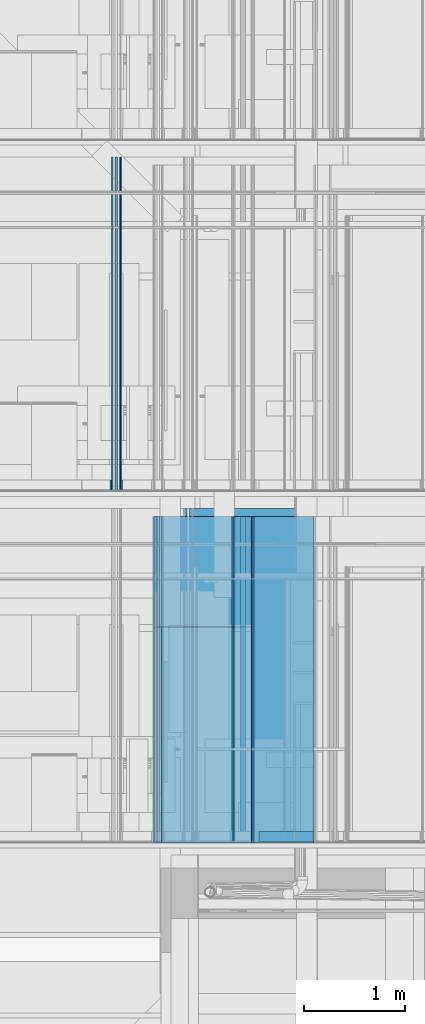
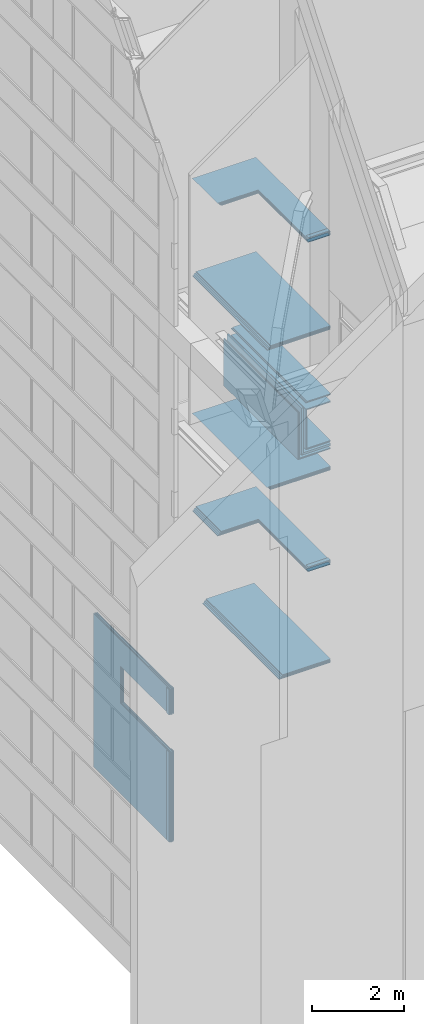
# One storey, part 62 of 583: 38 building element parts, 9 openings, 9 elements without a shape of their own.
"""IFC2X3 building model written with IfcOpenShell, lengths in metres."""

from ifc_helpers import new_model, entity, si_unit, converted_unit, derived_unit, money_unit, direction, frame, frame_2d, origin_with_axes, place, context, subcontext, project, spatial, polyline, rectangle, outline, extrude, material, type_object, element, aggregate, save


model = new_model("IFC2X3")

# Units and contexts
model_context = context("Model", 3, precision=1e-05, world=origin_with_axes(), true_north=direction((0.0, 1.0)))
body_context = subcontext(model_context, "Body", "Model", "MODEL_VIEW", scale=1.0)
ifc_project = project(units=[si_unit("LENGTHUNIT", "METRE"), si_unit("AREAUNIT", "SQUARE_METRE"), si_unit("VOLUMEUNIT", "CUBIC_METRE"), si_unit("ABSORBEDDOSEUNIT", "GRAY"), si_unit("AMOUNTOFSUBSTANCEUNIT", "MOLE"), si_unit("DOSEEQUIVALENTUNIT", "SIEVERT"), si_unit("ELECTRICCAPACITANCEUNIT", "FARAD"), si_unit("ELECTRICCHARGEUNIT", "COULOMB"), si_unit("ELECTRICCONDUCTANCEUNIT", "SIEMENS"), si_unit("ELECTRICCURRENTUNIT", "AMPERE"), si_unit("ELECTRICRESISTANCEUNIT", "OHM"), si_unit("ELECTRICVOLTAGEUNIT", "VOLT"), si_unit("ENERGYUNIT", "JOULE"), si_unit("FORCEUNIT", "NEWTON"), si_unit("FREQUENCYUNIT", "HERTZ"), si_unit("ILLUMINANCEUNIT", "LUX"), si_unit("INDUCTANCEUNIT", "HENRY"), si_unit("LUMINOUSFLUXUNIT", "LUMEN"), si_unit("LUMINOUSINTENSITYUNIT", "CANDELA"), si_unit("MAGNETICFLUXDENSITYUNIT", "TESLA"), si_unit("MAGNETICFLUXUNIT", "WEBER"), si_unit("MASSUNIT", "GRAM"), converted_unit("PLANEANGLEUNIT", "degree", entity("IfcReal", 0.0174532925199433), si_unit("PLANEANGLEUNIT", "RADIAN"), dimensions=[0, 0, 0, 0, 0, 0, 0]), si_unit("POWERUNIT", "WATT"), si_unit("PRESSUREUNIT", "PASCAL"), si_unit("RADIOACTIVITYUNIT", "BECQUEREL"), si_unit("SOLIDANGLEUNIT", "STERADIAN"), si_unit("THERMODYNAMICTEMPERATUREUNIT", "KELVIN"), si_unit("TIMEUNIT", "SECOND"), derived_unit("ACCELERATIONUNIT", [(si_unit("LENGTHUNIT", "METRE"), 1), (si_unit("TIMEUNIT", "SECOND"), -2)]), derived_unit("ANGULARVELOCITYUNIT", [(converted_unit("PLANEANGLEUNIT", "degree", entity("IfcReal", 0.0174532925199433), si_unit("PLANEANGLEUNIT", "RADIAN"), dimensions=[0, 0, 0, 0, 0, 0, 0]), 1), (si_unit("TIMEUNIT", "SECOND"), -1)]), derived_unit("CURVATUREUNIT", [(converted_unit("PLANEANGLEUNIT", "degree", entity("IfcReal", 0.0174532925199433), si_unit("PLANEANGLEUNIT", "RADIAN"), dimensions=[0, 0, 0, 0, 0, 0, 0]), 1), (si_unit("LENGTHUNIT", "METRE"), -1)]), derived_unit("DYNAMICVISCOSITYUNIT", [(si_unit("PRESSUREUNIT", "PASCAL"), 1), (si_unit("TIMEUNIT", "SECOND"), 1)]), derived_unit("HEATFLUXDENSITYUNIT", [(si_unit("POWERUNIT", "WATT"), 1), (si_unit("LENGTHUNIT", "METRE"), -2)]), derived_unit("HEATINGVALUEUNIT", [(si_unit("ENERGYUNIT", "JOULE"), 1), (si_unit("MASSUNIT", "GRAM"), -1)]), derived_unit("INTEGERCOUNTRATEUNIT", [(si_unit("TIMEUNIT", "SECOND"), -1)]), derived_unit("IONCONCENTRATIONUNIT", [(si_unit("MASSUNIT", "GRAM"), 1), (si_unit("VOLUMEUNIT", "CUBIC_METRE"), -1)]), derived_unit("ISOTHERMALMOISTURECAPACITYUNIT", [(si_unit("VOLUMEUNIT", "CUBIC_METRE"), 1), (si_unit("MASSUNIT", "GRAM"), -1)]), derived_unit("KINEMATICVISCOSITYUNIT", [(si_unit("AREAUNIT", "SQUARE_METRE"), 1), (si_unit("TIMEUNIT", "SECOND"), -1)]), derived_unit("LINEARFORCEUNIT", [(si_unit("FORCEUNIT", "NEWTON"), 1), (si_unit("LENGTHUNIT", "METRE"), -1)]), derived_unit("LINEARMOMENTUNIT", [(si_unit("FORCEUNIT", "NEWTON"), 1), (si_unit("LENGTHUNIT", "METRE"), -1)]), derived_unit("LINEARSTIFFNESSUNIT", [(si_unit("FORCEUNIT", "NEWTON"), 1), (si_unit("LENGTHUNIT", "METRE"), -1)]), derived_unit("LINEARVELOCITYUNIT", [(si_unit("LENGTHUNIT", "METRE"), 1), (si_unit("TIMEUNIT", "SECOND"), -1)]), derived_unit("LUMINOUSINTENSITYDISTRIBUTIONUNIT", [(si_unit("LUMINOUSINTENSITYUNIT", "CANDELA"), 1), (si_unit("LUMINOUSFLUXUNIT", "LUMEN"), -1)]), derived_unit("MASSDENSITYUNIT", [(si_unit("MASSUNIT", "GRAM"), 1), (si_unit("VOLUMEUNIT", "CUBIC_METRE"), -1)]), derived_unit("MASSFLOWRATEUNIT", [(si_unit("MASSUNIT", "GRAM"), 1), (si_unit("TIMEUNIT", "SECOND"), -1)]), derived_unit("MASSPERLENGTHUNIT", [(si_unit("MASSUNIT", "GRAM"), 1), (si_unit("LENGTHUNIT", "METRE"), -1)]), derived_unit("MODULUSOFELASTICITYUNIT", [(si_unit("FORCEUNIT", "NEWTON"), 1), (si_unit("AREAUNIT", "SQUARE_METRE"), -1)]), derived_unit("MODULUSOFLINEARSUBGRADEREACTIONUNIT", [(si_unit("FORCEUNIT", "NEWTON"), 1), (si_unit("LENGTHUNIT", "METRE"), -2)]), derived_unit("MODULUSOFROTATIONALSUBGRADEREACTIONUNIT", [(si_unit("FORCEUNIT", "NEWTON"), 1), (si_unit("LENGTHUNIT", "METRE"), 1)]), derived_unit("MODULUSOFSUBGRADEREACTIONUNIT", [(si_unit("FORCEUNIT", "NEWTON"), 1), (si_unit("VOLUMEUNIT", "CUBIC_METRE"), -1)]), derived_unit("MOISTUREDIFFUSIVITYUNIT", [(si_unit("VOLUMEUNIT", "CUBIC_METRE"), 1), (si_unit("TIMEUNIT", "SECOND"), -1)]), derived_unit("MOLECULARWEIGHTUNIT", [(si_unit("MASSUNIT", "GRAM"), 1), (si_unit("AMOUNTOFSUBSTANCEUNIT", "MOLE"), -1)]), derived_unit("PLANARFORCEUNIT", [(si_unit("FORCEUNIT", "NEWTON"), 1), (si_unit("LENGTHUNIT", "METRE"), -2)]), derived_unit("ROTATIONALFREQUENCYUNIT", [(si_unit("TIMEUNIT", "SECOND"), -1)]), derived_unit("ROTATIONALMASSUNIT", [(si_unit("MASSUNIT", "GRAM"), 1), (si_unit("LENGTHUNIT", "METRE"), 2)]), derived_unit("ROTATIONALSTIFFNESSUNIT", [(si_unit("FORCEUNIT", "NEWTON"), 1), (si_unit("LENGTHUNIT", "METRE"), 1), (converted_unit("PLANEANGLEUNIT", "degree", entity("IfcReal", 0.0174532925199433), si_unit("PLANEANGLEUNIT", "RADIAN"), dimensions=[0, 0, 0, 0, 0, 0, 0]), -1)]), derived_unit("SECTIONAREAINTEGRALUNIT", [(si_unit("LENGTHUNIT", "METRE"), 5)]), derived_unit("SECTIONMODULUSUNIT", [(si_unit("LENGTHUNIT", "METRE"), 3)]), derived_unit("SHEARMODULUSUNIT", [(si_unit("FORCEUNIT", "NEWTON"), 1), (si_unit("AREAUNIT", "SQUARE_METRE"), -1)]), derived_unit("SOUNDPOWERUNIT", [(si_unit("ENERGYUNIT", "JOULE"), 1), (si_unit("TIMEUNIT", "SECOND"), -1)]), derived_unit("SPECIFICHEATCAPACITYUNIT", [(si_unit("FORCEUNIT", "NEWTON"), 1), (si_unit("MASSUNIT", "GRAM"), -1), (si_unit("THERMODYNAMICTEMPERATUREUNIT", "KELVIN"), -1)]), derived_unit("TEMPERATUREGRADIENTUNIT", [(si_unit("THERMODYNAMICTEMPERATUREUNIT", "KELVIN"), 1), (si_unit("LENGTHUNIT", "METRE"), -1)]), derived_unit("THERMALADMITTANCEUNIT", [(si_unit("POWERUNIT", "WATT"), 1), (si_unit("AREAUNIT", "SQUARE_METRE"), -1), (si_unit("THERMODYNAMICTEMPERATUREUNIT", "KELVIN"), -1)]), derived_unit("THERMALCONDUCTANCEUNIT", [(si_unit("POWERUNIT", "WATT"), 1), (si_unit("LENGTHUNIT", "METRE"), -1), (si_unit("THERMODYNAMICTEMPERATUREUNIT", "KELVIN"), -1)]), derived_unit("THERMALEXPANSIONCOEFFICIENTUNIT", [(si_unit("THERMODYNAMICTEMPERATUREUNIT", "KELVIN"), -1)]), derived_unit("THERMALRESISTANCEUNIT", [(si_unit("AREAUNIT", "SQUARE_METRE"), 1), (si_unit("POWERUNIT", "WATT"), -1)]), derived_unit("THERMALTRANSMITTANCEUNIT", [(si_unit("POWERUNIT", "WATT"), 1), (si_unit("AREAUNIT", "SQUARE_METRE"), -1), (si_unit("THERMODYNAMICTEMPERATUREUNIT", "KELVIN"), -1)]), derived_unit("TORQUEUNIT", [(si_unit("FORCEUNIT", "NEWTON"), 1), (si_unit("LENGTHUNIT", "METRE"), 1)]), derived_unit("VAPORPERMEABILITYUNIT", [(si_unit("MASSUNIT", "GRAM"), 1), (si_unit("TIMEUNIT", "SECOND"), -1)]), derived_unit("VOLUMETRICFLOWRATEUNIT", [(si_unit("VOLUMEUNIT", "CUBIC_METRE"), 1), (si_unit("TIMEUNIT", "SECOND"), -1)]), derived_unit("WARPINGCONSTANTUNIT", [(si_unit("LENGTHUNIT", "METRE"), 6)]), derived_unit("WARPINGMOMENTUNIT", [(si_unit("FORCEUNIT", "NEWTON"), 1), (si_unit("LENGTHUNIT", "METRE"), 2)]), money_unit("GBP")], contexts=[model_context])

# Site, building, storey
site_placement = place(None, origin_with_axes())
site = spatial("IfcSite", under=ifc_project, at=site_placement, Name="Site", CompositionType="ELEMENT")
building_placement = place(site_placement, origin_with_axes())
building = spatial("IfcBuilding", under=site, at=building_placement, Name="Building01", CompositionType="ELEMENT")
storey_placement = place(building_placement, frame((0.0, 0.0, 20.78), z_axis=(0.0, 0.0, 1.0), x_axis=(1.0, 0.0, 0.0)))
storey = spatial("IfcBuildingStorey", under=building, at=storey_placement, Name="RL", CompositionType="ELEMENT", Elevation=20.78)

# Wall, building element parts
wall_type_1 = type_object("IfcWallType", Name="SHE_A-Walls_Type01c_Partywall_225mm_twin_tall", PredefinedType="NOTDEFINED")
wall_1_placement = place(storey_placement, frame((4.302428, 5.15, -8.492), z_axis=(0.0, 1.0, 0.0), x_axis=(0.0, 0.0, 1.0)))
wall_1 = element("IfcWall", 1, at=wall_1_placement, inside=storey, type_object=wall_type_1, Name="1C", ObjectType="SHE_A-Walls_Type01c_Partywall_225mm_twin_tall")
ifc_material_1 = material(Name="A_BSUK_Insulation")
placement_1 = place(wall_1_placement, origin_with_axes())
building_element_part_1 = element("IfcBuildingElementPart", 2, at=placement_1, material=ifc_material_1, Name="1", context=body_context, shape_type="SweptSolid", body=[
    extrude(outline(polyline([(1.1875, 0.0), (0.0, 0.0), (-0.05, -0.05), (1.1875, -0.05), (1.1875, 0.0)])), origin_with_axes(), (0.0, 0.0, 1.0), 3.24),
])
ifc_material_2 = material(Name="A_BSUK_WallInternal_Finishes_Plasterboard")
building_element_part_2 = element("IfcBuildingElementPart", 3, at=placement_1, material=ifc_material_2, Name="3", context=body_context, shape_type="SweptSolid", body=[
    extrude(outline(polyline([(1.1145, 0.087), (0.087, 0.087), (0.072, 0.072), (1.1145, 0.072), (1.1145, 0.087)])), origin_with_axes(), (0.0, 0.0, 1.0), 3.24),
])
building_element_part_3 = element("IfcBuildingElementPart", 4, at=placement_1, material=ifc_material_2, Name="4", context=body_context, shape_type="SweptSolid", body=[
    extrude(outline(polyline([(1.1145, 0.072), (0.072, 0.072), (0.057, 0.057), (1.1145, 0.057), (1.1145, 0.072)])), origin_with_axes(), (0.0, 0.0, 1.0), 3.24),
])
building_element_part_4 = element("IfcBuildingElementPart", 5, at=placement_1, material=ifc_material_2, Name="5", context=body_context, shape_type="SweptSolid", body=[
    extrude(outline(polyline([(1.1145, -0.108), (-0.108, -0.108), (-0.123, -0.123), (1.1145, -0.123), (1.1145, -0.108)])), origin_with_axes(), (0.0, 0.0, 1.0), 3.24),
])
building_element_part_5 = element("IfcBuildingElementPart", 6, at=placement_1, material=ifc_material_2, Name="6", context=body_context, shape_type="SweptSolid", body=[
    extrude(outline(polyline([(1.0995, -0.123), (-0.123, -0.123), (-0.138, -0.138), (1.0995, -0.138), (1.0995, -0.123)])), origin_with_axes(), (0.0, 0.0, 1.0), 3.24),
])
aggregate(wall_1, [building_element_part_1, building_element_part_2, building_element_part_3, building_element_part_4, building_element_part_5])

wall_2_placement = place(storey_placement, frame((4.995, 5.15, -7.2795), z_axis=(0.0, 1.0, 0.0), x_axis=(-1.0, 0.0, 0.0)))
wall_2 = element("IfcWall", 7, at=wall_2_placement, inside=storey, type_object=wall_type_1, Name="1C", ObjectType="SHE_A-Walls_Type01c_Partywall_225mm_twin_tall")
placement_2 = place(wall_2_placement, origin_with_axes())
building_element_part_6 = element("IfcBuildingElementPart", 8, at=placement_2, material=ifc_material_2, Name="3", context=body_context, shape_type="SweptSolid", body=[
    extrude(rectangle(XDim=0.590572, YDim=0.015, at=frame_2d((0.310286, 0.1045), x_axis=(-1.0, 0.0))), origin_with_axes(), (0.0, 0.0, 1.0), 3.24),
])
building_element_part_7 = element("IfcBuildingElementPart", 9, at=placement_2, material=ifc_material_2, Name="4", context=body_context, shape_type="SweptSolid", body=[
    extrude(rectangle(XDim=0.620572, YDim=0.015, at=frame_2d((0.325286, 0.0895), x_axis=(-1.0, 0.0))), origin_with_axes(), (0.0, 0.0, 1.0), 3.24),
])
building_element_part_8 = element("IfcBuildingElementPart", 10, at=placement_2, material=ifc_material_2, Name="5", context=body_context, shape_type="SweptSolid", body=[
    extrude(rectangle(XDim=0.620572, YDim=0.015, at=frame_2d((0.325286, -0.0905), x_axis=(-1.0, 0.0))), origin_with_axes(), (0.0, 0.0, 1.0), 3.24),
])
building_element_part_9 = element("IfcBuildingElementPart", 11, at=placement_2, material=ifc_material_2, Name="6", context=body_context, shape_type="SweptSolid", body=[
    extrude(rectangle(XDim=0.590572, YDim=0.015, at=frame_2d((0.310286, -0.1055), x_axis=(-1.0, 0.0))), origin_with_axes(), (0.0, 0.0, 1.0), 3.24),
])
aggregate(wall_2, [building_element_part_6, building_element_part_7, building_element_part_8, building_element_part_9])

wall_3_placement = place(storey_placement, frame((4.98, 5.15, -8.492), z_axis=(0.0, 1.0, 0.0), x_axis=(-1.0, 0.0, 0.0)))
wall_3 = element("IfcWall", 12, at=wall_3_placement, inside=storey, type_object=wall_type_1, Name="1C", ObjectType="SHE_A-Walls_Type01c_Partywall_225mm_twin_tall")
placement_3 = place(wall_3_placement, origin_with_axes())
building_element_part_10 = element("IfcBuildingElementPart", 13, at=placement_3, material=ifc_material_1, Name="1", context=body_context, shape_type="SweptSolid", body=[
    extrude(outline(polyline([(0.677572, 0.0), (0.0, 0.0), (0.0, -0.05), (0.727572, -0.05), (0.677572, 0.0)])), origin_with_axes(), (0.0, 0.0, 1.0), 3.24),
])
building_element_part_11 = element("IfcBuildingElementPart", 14, at=placement_3, material=ifc_material_2, Name="3", context=body_context, shape_type="SweptSolid", body=[
    extrude(outline(polyline([(0.590572, 0.087), (0.0, 0.087), (0.0, 0.072), (0.605572, 0.072), (0.590572, 0.087)])), origin_with_axes(), (0.0, 0.0, 1.0), 3.24),
])
building_element_part_12 = element("IfcBuildingElementPart", 15, at=placement_3, material=ifc_material_2, Name="4", context=body_context, shape_type="SweptSolid", body=[
    extrude(outline(polyline([(0.605572, 0.072), (0.0, 0.072), (0.0, 0.057), (0.620572, 0.057), (0.605572, 0.072)])), origin_with_axes(), (0.0, 0.0, 1.0), 3.24),
])
building_element_part_13 = element("IfcBuildingElementPart", 16, at=placement_3, material=ifc_material_2, Name="5", context=body_context, shape_type="SweptSolid", body=[
    extrude(outline(polyline([(0.785572, -0.108), (0.0, -0.108), (0.0, -0.123), (0.800572, -0.123), (0.785572, -0.108)])), origin_with_axes(), (0.0, 0.0, 1.0), 3.24),
])
building_element_part_14 = element("IfcBuildingElementPart", 17, at=placement_3, material=ifc_material_2, Name="6", context=body_context, shape_type="SweptSolid", body=[
    extrude(outline(polyline([(0.800572, -0.123), (0.0, -0.123), (0.0, -0.138), (0.815572, -0.138), (0.800572, -0.123)])), origin_with_axes(), (0.0, 0.0, 1.0), 3.24),
])
aggregate(wall_3, [building_element_part_10, building_element_part_11, building_element_part_12, building_element_part_13, building_element_part_14])

wall_type_2 = type_object("IfcWallType", Name="SHE_A-Walls_Type05a_Partition_95mm_tall", PredefinedType="NOTDEFINED")
wall_4_placement = place(storey_placement, frame((3.42, 5.15, -5.4325), z_axis=(0.0, 1.0, 0.0), x_axis=(1.0, 0.0, 0.0)))
wall_4 = element("IfcWall", 18, at=wall_4_placement, inside=storey, type_object=wall_type_2, Name="5A", ObjectType="SHE_A-Walls_Type05a_Partition_95mm_tall")
placement_4 = place(wall_4_placement, origin_with_axes())
building_element_part_15 = element("IfcBuildingElementPart", 19, at=placement_4, material=ifc_material_1, Name="1", context=body_context, shape_type="SweptSolid", body=[
    extrude(outline(polyline([(1.56, 0.0), (0.0, 0.0), (0.025, -0.025), (1.56, -0.025), (1.56, 0.0)])), origin_with_axes(), (0.0, 0.0, 1.0), 3.24),
])
building_element_part_16 = element("IfcBuildingElementPart", 20, at=placement_4, material=ifc_material_2, Name="4", context=body_context, shape_type="SweptSolid", body=[
    extrude(outline(polyline([(1.56, 0.035), (-0.035, 0.035), (-0.023, 0.023), (1.56, 0.023), (1.56, 0.035)])), origin_with_axes(), (0.0, 0.0, 1.0), 3.24),
])
building_element_part_17 = element("IfcBuildingElementPart", 21, at=placement_4, material=ifc_material_2, Name="5", context=body_context, shape_type="SweptSolid", body=[
    extrude(outline(polyline([(1.56, -0.048), (0.048, -0.048), (0.06, -0.06), (1.56, -0.06), (1.56, -0.048)])), origin_with_axes(), (0.0, 0.0, 1.0), 3.24),
])
aggregate(wall_4, [building_element_part_15, building_element_part_16, building_element_part_17])

# Wall, openings, building element parts
wall_5_placement = place(storey_placement, frame((4.98, 5.15, -2.9125), z_axis=(0.0, 1.0, 0.0), x_axis=(-1.0, 0.0, 0.0)))
wall_5 = element("IfcWall", 22, at=wall_5_placement, inside=storey, type_object=wall_type_2, Name="5A", ObjectType="SHE_A-Walls_Type05a_Partition_95mm_tall")
opening_1_placement = place(wall_5_placement, frame((0.574219, -0.1, -0.015), z_axis=(0.0, 0.0, 1.0), x_axis=(1.0, 0.0, 0.0)))
element("IfcOpeningElement", 23, at=opening_1_placement, cuts=wall_5, Name="Opening", ObjectType="Opening", context=body_context, shape_type="SweptSolid", body=[
    extrude(rectangle(XDim=0.834, YDim=2.142, at=frame_2d((0.417, 1.071), x_axis=(-1.0, 0.0))), frame((0.0, 3.016327, 0.0), z_axis=(0.0, -1.0, 0.0), x_axis=(1.0, 0.0, 0.0)), (0.0, 0.0, 1.0), 6.032653),
])
opening_2_placement = place(wall_5_placement, frame((0.774219, -0.06, 0.0), z_axis=(0.0, 0.0, 1.0), x_axis=(1.0, 0.0, 0.0)))
element("IfcOpeningElement", 24, at=opening_2_placement, cuts=wall_5, Name="Opening", ObjectType="Opening", context=body_context, shape_type="SweptSolid", body=[
    extrude(rectangle(XDim=2.142, YDim=0.834, at=frame_2d((0.417, 1.071), x_axis=(0.0, -1.0))), frame((0.0, 4.043482, 0.0), z_axis=(0.0, -1.0, 0.0), x_axis=(1.0, 0.0, 0.0)), (0.0, 0.0, 1.0), 8.086964),
])
opening_3_placement = place(wall_5_placement, frame((0.574219, 0.035, 0.0), z_axis=(0.0, 0.0, 1.0), x_axis=(1.0, 0.0, 0.0)))
element("IfcOpeningElement", 25, at=opening_3_placement, cuts=wall_5, Name="Opening", ObjectType="Opening", context=body_context, shape_type="SweptSolid", body=[
    extrude(rectangle(XDim=2.142, YDim=0.834, at=frame_2d((-0.417, 1.071), x_axis=(0.0, -1.0))), frame((0.0, -3.956148, 0.0), z_axis=(0.0, 1.0, 0.0), x_axis=(-1.0, 0.0, 0.0)), (0.0, 0.0, 1.0), 7.912296),
])
placement_5 = place(wall_5_placement, origin_with_axes())
building_element_part_18 = element("IfcBuildingElementPart", 26, at=placement_5, material=ifc_material_1, Name="1", context=body_context, shape_type="SweptSolid", body=[
    extrude(outline(polyline([(1.56, 0.0), (0.0, 0.0), (0.0, -0.025), (1.535, -0.025), (1.56, 0.0)])), origin_with_axes(), (0.0, 0.0, 1.0), 3.24),
])
ifc_material_3 = material(Name="A_BSUK_Walls_Timber")
building_element_part_19 = element("IfcBuildingElementPart", 27, at=placement_5, material=ifc_material_3, Name="2", context=body_context, shape_type="SweptSolid", body=[
    extrude(rectangle(XDim=0.015, YDim=0.532219, at=frame_2d((0.28111, 0.0425), x_axis=(0.0, -1.0))), frame((0.0, 0.0, 0.015), z_axis=(0.0, 0.0, 1.0), x_axis=(1.0, 0.0, 0.0)), (0.0, 0.0, 1.0), 0.1),
])
building_element_part_20 = element("IfcBuildingElementPart", 28, at=placement_5, material=ifc_material_3, Name="3", context=body_context, shape_type="SweptSolid", body=[
    extrude(rectangle(XDim=0.015, YDim=0.532219, at=frame_2d((0.28111, -0.0675), x_axis=(0.0, -1.0))), frame((0.0, 0.0, 0.015), z_axis=(0.0, 0.0, 1.0), x_axis=(1.0, 0.0, 0.0)), (0.0, 0.0, 1.0), 0.1),
])
building_element_part_21 = element("IfcBuildingElementPart", 29, at=placement_5, material=ifc_material_2, Name="4", context=body_context, shape_type="SweptSolid", body=[
    extrude(outline(polyline([(1.595, 0.035), (0.0, 0.035), (0.0, 0.023), (1.583, 0.023), (1.595, 0.035)])), origin_with_axes(), (0.0, 0.0, 1.0), 3.24),
])
building_element_part_22 = element("IfcBuildingElementPart", 30, at=placement_5, material=ifc_material_2, Name="5", context=body_context, shape_type="SweptSolid", body=[
    extrude(outline(polyline([(1.512, -0.048), (0.0, -0.048), (0.0, -0.06), (1.5, -0.06), (1.512, -0.048)])), origin_with_axes(), (0.0, 0.0, 1.0), 3.24),
])
aggregate(wall_5, [building_element_part_18, building_element_part_19, building_element_part_20, building_element_part_21, building_element_part_22])

# Wall, building element parts
wall_6_placement = place(storey_placement, frame((3.42, 5.15, -9.127464), z_axis=(0.0, 1.0, 0.0), x_axis=(-1.0, 0.0, 0.0)))
wall_6 = element("IfcWall", 31, at=wall_6_placement, inside=storey, type_object=wall_type_2, Name="5A", ObjectType="SHE_A-Walls_Type05a_Partition_95mm_tall")
placement_6 = place(wall_6_placement, origin_with_axes())
building_element_part_23 = element("IfcBuildingElementPart", 32, at=placement_6, material=ifc_material_1, Name="1", context=body_context, shape_type="SweptSolid", body=[
    extrude(outline(polyline([(-1.56, -0.025), (-0.025, -0.025), (0.0, 0.0), (-1.56, 0.0), (-1.56, -0.025)])), origin_with_axes(), (0.0, 0.0, 1.0), 3.24),
])
building_element_part_24 = element("IfcBuildingElementPart", 33, at=placement_6, material=ifc_material_2, Name="4", context=body_context, shape_type="SweptSolid", body=[
    extrude(outline(polyline([(-1.56, 0.023), (0.023, 0.023), (0.035, 0.035), (-1.56, 0.035), (-1.56, 0.023)])), origin_with_axes(), (0.0, 0.0, 1.0), 3.24),
])
building_element_part_25 = element("IfcBuildingElementPart", 34, at=placement_6, material=ifc_material_2, Name="5", context=body_context, shape_type="SweptSolid", body=[
    extrude(outline(polyline([(-1.56, -0.06), (-0.06, -0.06), (-0.048, -0.048), (-1.56, -0.048), (-1.56, -0.06)])), origin_with_axes(), (0.0, 0.0, 1.0), 3.24),
])
aggregate(wall_6, [building_element_part_23, building_element_part_24, building_element_part_25])

# Wall, openings, building element parts
wall_7_placement = place(storey_placement, frame((4.98, 5.15, -11.647464), z_axis=(0.0, 1.0, 0.0), x_axis=(-1.0, 0.0, 0.0)))
wall_7 = element("IfcWall", 35, at=wall_7_placement, inside=storey, type_object=wall_type_2, Name="5A", ObjectType="SHE_A-Walls_Type05a_Partition_95mm_tall")
opening_4_placement = place(wall_7_placement, frame((0.574219, 0.1, -0.015), z_axis=(0.0, 0.0, 1.0), x_axis=(1.0, 0.0, 0.0)))
element("IfcOpeningElement", 36, at=opening_4_placement, cuts=wall_7, Name="Opening", ObjectType="Opening", context=body_context, shape_type="SweptSolid", body=[
    extrude(rectangle(XDim=0.834, YDim=2.142, at=frame_2d((-0.417, 1.071), x_axis=(1.0, 0.0))), frame((0.0, -3.016327, 0.0), z_axis=(0.0, 1.0, 0.0), x_axis=(-1.0, 0.0, 0.0)), (0.0, 0.0, 1.0), 6.032653),
])
opening_5_placement = place(wall_7_placement, frame((0.774219, 0.06, 0.0), z_axis=(0.0, 0.0, 1.0), x_axis=(1.0, 0.0, 0.0)))
element("IfcOpeningElement", 37, at=opening_5_placement, cuts=wall_7, Name="Opening", ObjectType="Opening", context=body_context, shape_type="SweptSolid", body=[
    extrude(rectangle(XDim=2.142, YDim=0.834, at=frame_2d((-0.417, 1.071), x_axis=(0.0, -1.0))), frame((0.0, -4.043482, 0.0), z_axis=(0.0, 1.0, 0.0), x_axis=(-1.0, 0.0, 0.0)), (0.0, 0.0, 1.0), 8.086964),
])
opening_6_placement = place(wall_7_placement, frame((0.574219, 0.06, 0.0), z_axis=(0.0, 0.0, 1.0), x_axis=(1.0, 0.0, 0.0)))
element("IfcOpeningElement", 38, at=opening_6_placement, cuts=wall_7, Name="Opening", ObjectType="Opening", context=body_context, shape_type="SweptSolid", body=[
    extrude(rectangle(XDim=2.142, YDim=0.834, at=frame_2d((-0.417, 1.071), x_axis=(0.0, -1.0))), frame((0.0, -3.956148, 0.0), z_axis=(0.0, 1.0, 0.0), x_axis=(-1.0, 0.0, 0.0)), (0.0, 0.0, 1.0), 7.912296),
])
placement_7 = place(wall_7_placement, origin_with_axes())
building_element_part_26 = element("IfcBuildingElementPart", 39, at=placement_7, material=ifc_material_1, Name="1", context=body_context, shape_type="SweptSolid", body=[
    extrude(outline(polyline([(1.535, 0.025), (0.0, 0.025), (0.0, 0.0), (1.56, 0.0), (1.535, 0.025)])), origin_with_axes(), (0.0, 0.0, 1.0), 3.24),
])
building_element_part_27 = element("IfcBuildingElementPart", 40, at=placement_7, material=ifc_material_3, Name="2", context=body_context, shape_type="SweptSolid", body=[
    extrude(rectangle(XDim=0.015, YDim=0.547219, at=frame_2d((0.27361, -0.0425), x_axis=(0.0, -1.0))), frame((0.0, 0.0, 0.015), z_axis=(0.0, 0.0, 1.0), x_axis=(1.0, 0.0, 0.0)), (0.0, 0.0, 1.0), 0.1),
])
building_element_part_28 = element("IfcBuildingElementPart", 41, at=placement_7, material=ifc_material_3, Name="3", context=body_context, shape_type="SweptSolid", body=[
    extrude(rectangle(XDim=0.015, YDim=0.547219, at=frame_2d((0.27361, 0.0675), x_axis=(0.0, -1.0))), frame((0.0, 0.0, 0.015), z_axis=(0.0, 0.0, 1.0), x_axis=(1.0, 0.0, 0.0)), (0.0, 0.0, 1.0), 0.1),
])
building_element_part_29 = element("IfcBuildingElementPart", 42, at=placement_7, material=ifc_material_2, Name="4", context=body_context, shape_type="SweptSolid", body=[
    extrude(outline(polyline([(1.583, -0.023), (0.0, -0.023), (0.0, -0.035), (1.595, -0.035), (1.583, -0.023)])), origin_with_axes(), (0.0, 0.0, 1.0), 3.24),
])
building_element_part_30 = element("IfcBuildingElementPart", 43, at=placement_7, material=ifc_material_2, Name="5", context=body_context, shape_type="SweptSolid", body=[
    extrude(outline(polyline([(1.5, 0.06), (0.0, 0.06), (0.0, 0.048), (1.512, 0.048), (1.5, 0.06)])), origin_with_axes(), (0.0, 0.0, 1.0), 3.24),
])
aggregate(wall_7, [building_element_part_26, building_element_part_27, building_element_part_28, building_element_part_29, building_element_part_30])

# Wall, building element parts
wall_8_placement = place(storey_placement, frame((3.72, 5.15, -14.245), z_axis=(0.0, 1.0, 0.0), x_axis=(1.0, 0.0, 0.0)))
wall_8 = element("IfcWall", 44, at=wall_8_placement, inside=storey, type_object=wall_type_2, Name="5A", ObjectType="SHE_A-Walls_Type05a_Partition_95mm_tall")
placement_8 = place(wall_8_placement, origin_with_axes())
building_element_part_31 = element("IfcBuildingElementPart", 45, at=placement_8, material=ifc_material_1, Name="1", context=body_context, shape_type="SweptSolid", body=[
    extrude(outline(polyline([(1.26, 0.0), (0.0, 0.0), (0.025, -0.025), (1.26, -0.025), (1.26, 0.0)])), origin_with_axes(), (0.0, 0.0, 1.0), 3.32),
])
building_element_part_32 = element("IfcBuildingElementPart", 46, at=placement_8, material=ifc_material_2, Name="4", context=body_context, shape_type="SweptSolid", body=[
    extrude(outline(polyline([(1.26, 0.035), (-0.035, 0.035), (-0.023, 0.023), (1.26, 0.023), (1.26, 0.035)])), origin_with_axes(), (0.0, 0.0, 1.0), 3.32),
])
building_element_part_33 = element("IfcBuildingElementPart", 47, at=placement_8, material=ifc_material_2, Name="5", context=body_context, shape_type="SweptSolid", body=[
    extrude(outline(polyline([(1.26, -0.048), (0.048, -0.048), (0.06, -0.06), (1.26, -0.06), (1.26, -0.048)])), origin_with_axes(), (0.0, 0.0, 1.0), 3.32),
])
aggregate(wall_8, [building_element_part_31, building_element_part_32, building_element_part_33])

# Wall, openings, building element parts
wall_9_placement = place(storey_placement, frame((3.030286, 8.64, -20.462), z_axis=(0.0, 1.0, 0.0), x_axis=(0.0, 0.0, 1.0)))
wall_9 = element("IfcWall", 48, at=wall_9_placement, inside=storey, type_object=wall_type_2, Name="5A", ObjectType="SHE_A-Walls_Type05a_Partition_95mm_tall")
opening_7_placement = place(wall_9_placement, frame((2.433, 0.229, -0.03), z_axis=(0.0, 0.0, 1.0), x_axis=(1.0, 0.0, 0.0)))
element("IfcOpeningElement", 49, at=opening_7_placement, cuts=wall_9, Name="Opening", ObjectType="Opening", context=body_context, shape_type="SweptSolid", body=[
    extrude(rectangle(XDim=0.942, YDim=2.142, at=frame_2d((-0.471, 1.071), x_axis=(1.0, 0.0))), frame((0.0, -0.381, 0.0), z_axis=(0.0, 1.0, 0.0), x_axis=(-1.0, 0.0, 0.0)), (0.0, 0.0, 1.0), 0.762),
])
opening_8_placement = place(wall_9_placement, frame((2.433, 0.069, -0.015), z_axis=(0.0, 0.0, 1.0), x_axis=(1.0, 0.0, 0.0)))
element("IfcOpeningElement", 50, at=opening_8_placement, cuts=wall_9, Name="Opening", ObjectType="Opening", context=body_context, shape_type="SweptSolid", body=[
    extrude(rectangle(XDim=0.9, YDim=2.142, at=frame_2d((0.45, 1.071), x_axis=(-1.0, 0.0))), frame((0.0, 0.141, 0.0), z_axis=(0.0, -1.0, 0.0), x_axis=(1.0, 0.0, 0.0)), (0.0, 0.0, 1.0), 0.282),
])
opening_9_placement = place(wall_9_placement, frame((2.391, -0.06, 0.0), z_axis=(0.0, 0.0, 1.0), x_axis=(1.0, 0.0, 0.0)))
element("IfcOpeningElement", 51, at=opening_9_placement, cuts=wall_9, Name="Opening", ObjectType="Opening", context=body_context, shape_type="SweptSolid", body=[
    extrude(rectangle(XDim=2.142, YDim=0.984, at=frame_2d((0.492, 1.071), x_axis=(0.0, -1.0))), frame((0.0, 5.718031, 0.0), z_axis=(0.0, -1.0, 0.0), x_axis=(1.0, 0.0, 0.0)), (0.0, 0.0, 1.0), 11.436062),
])
placement_9 = place(wall_9_placement, origin_with_axes())
building_element_part_34 = element("IfcBuildingElementPart", 52, at=placement_9, material=ifc_material_1, Name="1", context=body_context, shape_type="SweptSolid", body=[
    extrude(rectangle(XDim=4.067, YDim=0.025, at=frame_2d((2.0335, -0.0125), x_axis=(-1.0, 0.0))), origin_with_axes(), (0.0, 0.0, 1.0), 3.32),
])
building_element_part_35 = element("IfcBuildingElementPart", 53, at=placement_9, material=ifc_material_3, Name="2", context=body_context, shape_type="SweptSolid", body=[
    extrude(rectangle(XDim=4.037, YDim=0.015, at=frame_2d((2.0335, -0.0675), x_axis=(-1.0, 0.0))), frame((0.0, 0.0, 0.015), z_axis=(0.0, 0.0, 1.0), x_axis=(1.0, 0.0, 0.0)), (0.0, 0.0, 1.0), 0.1),
])
building_element_part_36 = element("IfcBuildingElementPart", 54, at=placement_9, material=ifc_material_3, Name="3", context=body_context, shape_type="SweptSolid", body=[
    extrude(rectangle(XDim=4.037, YDim=0.015, at=frame_2d((2.0335, 0.0425), x_axis=(-1.0, 0.0))), frame((0.0, 0.0, 0.015), z_axis=(0.0, 0.0, 1.0), x_axis=(1.0, 0.0, 0.0)), (0.0, 0.0, 1.0), 0.1),
])
building_element_part_37 = element("IfcBuildingElementPart", 55, at=placement_9, material=ifc_material_2, Name="4", context=body_context, shape_type="SweptSolid", body=[
    extrude(rectangle(XDim=4.067, YDim=0.012, at=frame_2d((2.0335, -0.054), x_axis=(-1.0, 0.0))), origin_with_axes(), (0.0, 0.0, 1.0), 3.32),
])
building_element_part_38 = element("IfcBuildingElementPart", 56, at=placement_9, material=ifc_material_2, Name="5", context=body_context, shape_type="SweptSolid", body=[
    extrude(rectangle(XDim=4.067, YDim=0.012, at=frame_2d((2.0335, 0.029), x_axis=(-1.0, 0.0))), origin_with_axes(), (0.0, 0.0, 1.0), 3.32),
])
aggregate(wall_9, [building_element_part_34, building_element_part_35, building_element_part_36, building_element_part_37, building_element_part_38])

save(model, "model.ifc")
